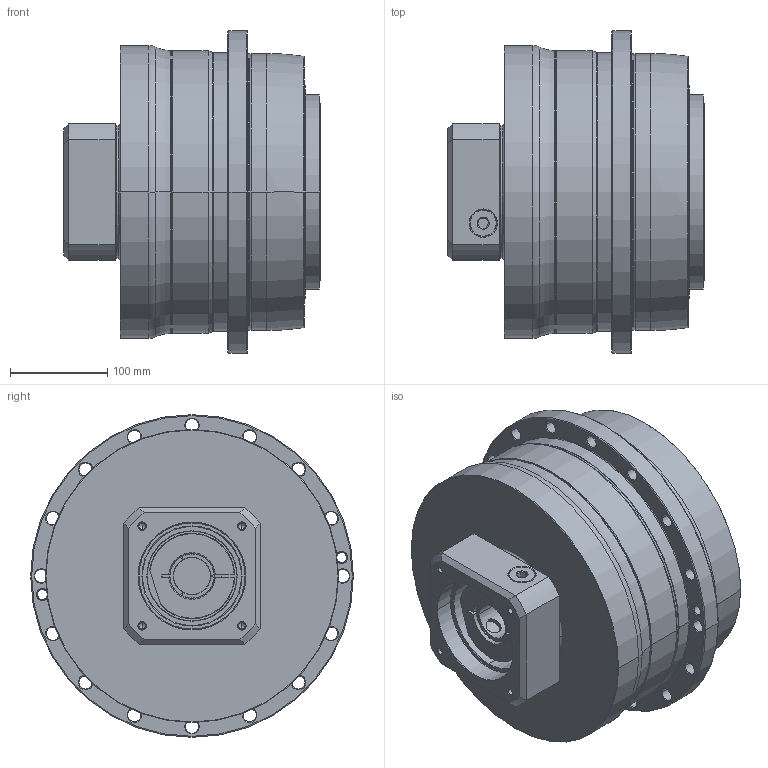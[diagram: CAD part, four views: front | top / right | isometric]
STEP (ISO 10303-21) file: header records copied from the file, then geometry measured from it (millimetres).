
FILE_DESCRIPTION((''),'2;1');
FILE_NAME('AH285_1ST_38-P0409900101_ASM','2016-10-12T',('d00435'),(''),'PRO/ENGINEER BY PARAMETRIC TECHNOLOGY CORPORATION, 2008410','PRO/ENGINEER BY PARAMETRIC TECHNOLOGY CORPORATION, 2008410','');
FILE_SCHEMA(('CONFIG_CONTROL_DESIGN'));
Length unit declared in the file: millimetre
Products named in the file (8): P0278800003; P0359800003; P1318800101; P0409900101; P0503900012; P0912801201; 21711422019; AH285_1ST_38-P0409900101_ASM
Assembly tree (7 placements, depth 2):
  AH285_1ST_38-P0409900101_ASM
    P0278800003
    P0359800003
    P1318800101
    P0409900101
    P0503900012
    P0912801201
    21711422019
Bounding box: 264 x 332 x 332 mm (x, y, z)
Volume: 14327873.6 mm3; surface area: 906240.5 mm2
Topology: 8 solids, 34 shells, 652 faces, 1515 edges, 917 vertices
Faces by surface type: cylinder 268, cone 192, plane 116, torus 62, bspline 14
Entity records: 23023 total; most frequent: CARTESIAN_POINT 7711, DIRECTION 3509, ORIENTED_EDGE 2834, AXIS2_PLACEMENT_3D 1489, EDGE_CURVE 1469, VERTEX_POINT 917, CIRCLE 824, EDGE_LOOP 786
